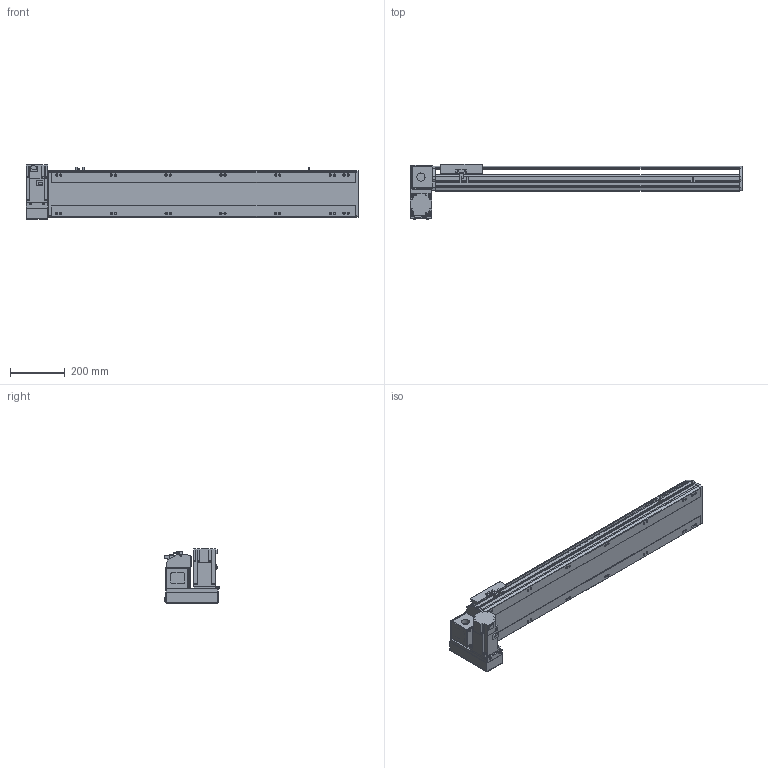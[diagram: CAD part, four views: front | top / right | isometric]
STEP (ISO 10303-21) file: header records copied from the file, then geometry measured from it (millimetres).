
FILE_DESCRIPTION(/* description */ ('STEP AP214'),/* implementation_level */ '2;1');
FILE_NAME(/* name */ 'PBS170-P40-S850-LD-T75-C1-N(0)',/* time_stamp */ '2022-06-07T09:51:07+02:00',/* author */ ('License CC BY-ND 4.0'),/* organization */ ('CADENAS'),/* preprocessor_version */ 'ST-DEVELOPER v18.102',/* originating_system */ 'PARTsolutions',/* authorisation */ ' ');
FILE_SCHEMA (('AUTOMOTIVE_DESIGN {1 0 10303 214 3 1 1}'));
Length unit declared in the file: millimetre
Products named in the file (7): PBS170-P40-S850-LD-T75-C1-N(0); PBS170_sensor; PBS170_plant; PBS170_sliser; T75-p1; PBS170T-LD_motors; PBS170-S850()_body
Assembly tree (8 placements, depth 2):
  PBS170-P40-S850-LD-T75-C1-N(0)
    PBS170_sensor  x3
    PBS170_plant
    PBS170_sliser
    T75-p1
    PBS170T-LD_motors
    PBS170-S850()_body
Bounding box: 1213 x 201 x 197.3 mm (x, y, z)
Volume: 9918887 mm3; surface area: 1312294.1 mm2
Topology: 8 solids, 8 shells, 1066 faces, 2835 edges, 1848 vertices
Faces by surface type: plane 681, cylinder 331, cone 44, sphere 8, torus 2
Full cylindrical faces by diameter (mm): 3.242 x4, 4 x2, 4.4 x4, 4.5 x6, 4.917 x4, 6 x9, 6.647 x22, 7 x2, 7.5 x4, 8 x8, 8.5 x14, 10 x4, 10.5 x14, 11 x2, 30 x2, 40 x1, 70 x1
Entity records: 30660 total; most frequent: CARTESIAN_POINT 5601, DIRECTION 5230, ORIENTED_EDGE 4968, EDGE_CURVE 2484, AXIS2_PLACEMENT_3D 1807, VERTEX_POINT 1706, LINE 1616, VECTOR 1616
